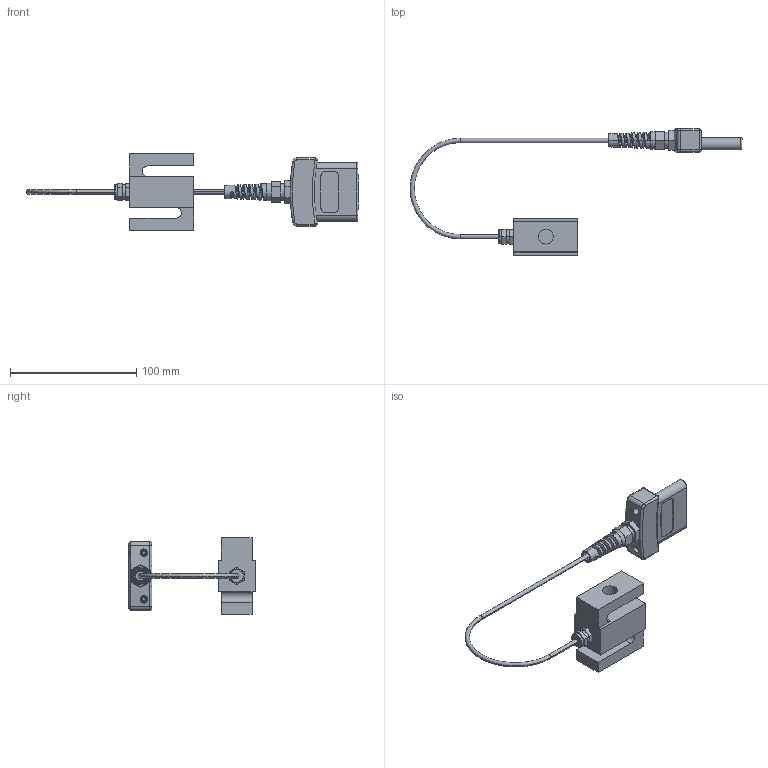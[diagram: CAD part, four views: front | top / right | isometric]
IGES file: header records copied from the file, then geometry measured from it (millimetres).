
Global section: file name: No Iges File Name specified; native system: Autodesk Inventor 2010; preprocessor: AutoDesk Inventor Iges Exporter R2010; author: mlampen; date: 20170620.150120; units: inch
Bounding box: 262.98 x 99.95 x 60.96 mm (x, y, z)
Volume: 103055.2 mm3; surface area: 32606.3 mm2
Topology: 4 solids, 4 shells, 429 faces, 1136 edges, 737 vertices
Faces by surface type: plane 149, revolution 85, bspline 81, cylinder 67, cone 27, torus 16, sphere 4
Full cylindrical faces by diameter (mm): 2.02 x13, 2.845 x14
